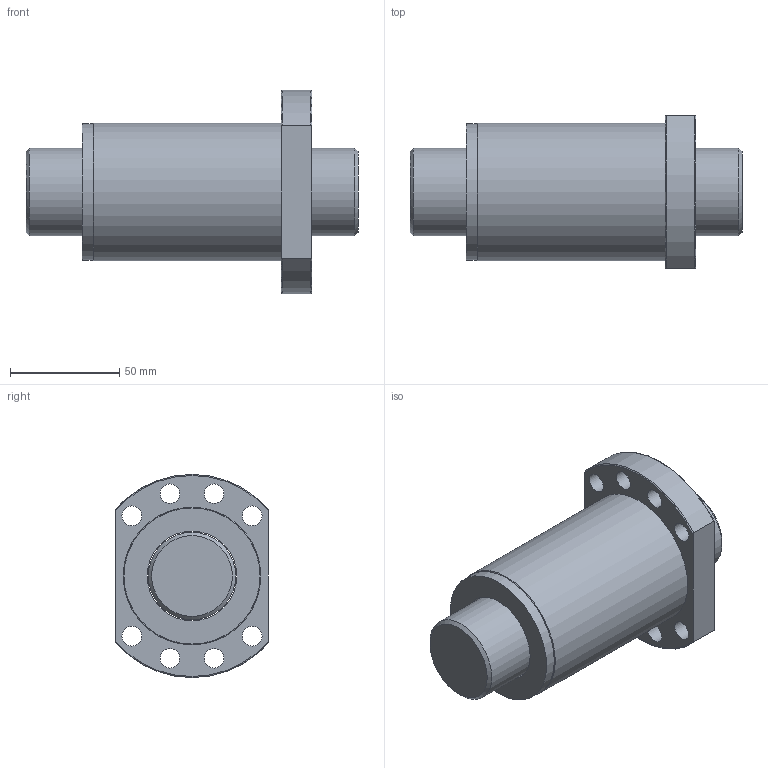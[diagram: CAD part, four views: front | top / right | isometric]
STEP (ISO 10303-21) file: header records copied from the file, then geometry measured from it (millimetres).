
FILE_DESCRIPTION(/* description */ (''),/* implementation_level */ '2;1');
FILE_NAME(/* name */ 'SFS4040-1.8',/* time_stamp */ '2007-10-26T11:24:46+08:00',/* author */ (''),/* organization */ (''),/* preprocessor_version */ 'ST-DEVELOPER v9',/* originating_system */ 'UGS - NX 3.0',/* authorisation */ '');
FILE_SCHEMA (('CONFIG_CONTROL_DESIGN'));
Length unit declared in the file: millimetre
Products named in the file (1): jaso37B0hu8k
Bounding box: 152 x 70 x 93 mm (x, y, z)
Volume: 409780.5 mm3; surface area: 76788.3 mm2
Topology: 4 solids, 4 shells, 37 faces, 78 edges, 51 vertices
Faces by surface type: cylinder 18, plane 12, torus 5, cone 2
Full cylindrical faces by diameter (mm): 9 x8, 40 x1, 41 x3, 62.3 x2, 62.5 x1, 63 x1
Entity records: 1168 total; most frequent: CARTESIAN_POINT 292, DIRECTION 170, ORIENTED_EDGE 118, AXIS2_PLACEMENT_3D 81, EDGE_LOOP 80, FACE_BOUND 60, EDGE_CURVE 59, VERTEX_POINT 51
